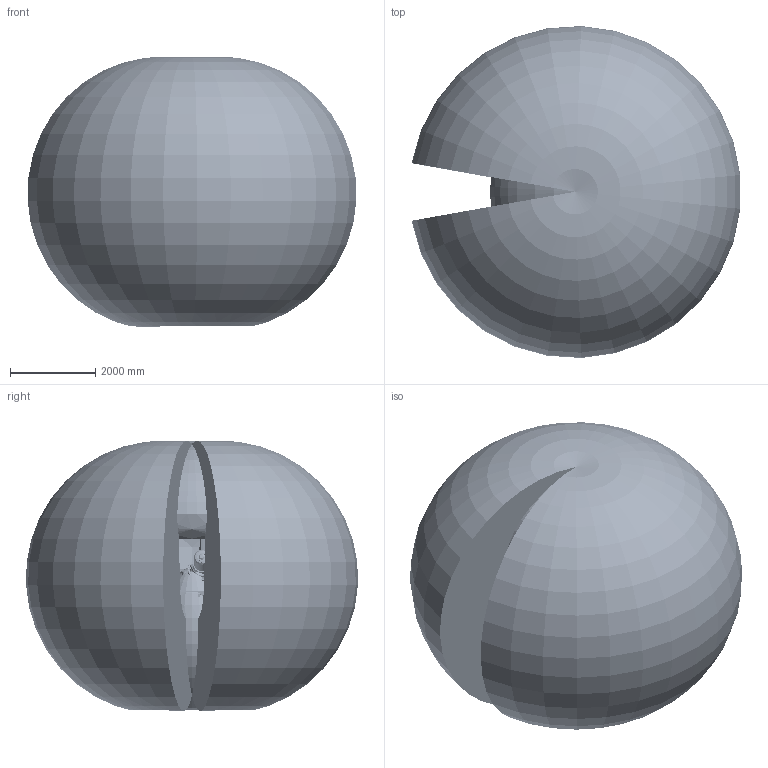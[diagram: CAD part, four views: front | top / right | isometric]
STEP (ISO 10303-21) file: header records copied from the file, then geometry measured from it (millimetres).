
FILE_DESCRIPTION (( 'STEP AP214' ), '1' );
FILE_NAME ('IRB6750S-LID-SW_185kg-390_OC_01_ASM_CAD.step', '2026-05-13T05:40:00', ( '' ), ( '' ), 'SwSTEP 2.0', 'SolidWorks 2024', '' );
FILE_SCHEMA (( 'AUTOMOTIVE_DESIGN' ));
Length unit declared in the file: millimetre
Products named in the file (20): IRB6750S-ALL-OC_00_LINK03m_CABLE; IRB6750S-ALL-OC_00_LINK02_CABLE; IRB6750S-ALL-OC_00_LINK01m_CABLE; IRB6750S_All_OC_00_LINK01_CAD; IRB6750S_All-390_OC_00_LINK04_CAD; IRB6750S-ALL-OC_00_LINK03b_CABLE; IRB6750S-LID_ALL-390-OC_00_LINK04_CABLE; IRB6750S_All-390_OC_01_LINK05_CAD; IRB6750S-LID_185kg-390_OC_00_LINK06_CABLE; IRB6750S_All_OC_00_LINK02_CAD; IRB6750S_All_OC_00_BASE_CAD; IRB6750S-LID_185kg-390_OC_00_Working-envelope; IRB6750S-LID-SW_185kg-390_OC_01_ASM_CAD; IRB6750S_All_OC_00_CYL_CAD; IRB6750S_All_OC_00_LINK03_CAD; IRB6750S-LID-SW_ALL-OC_00_LINK03a_CABLE; IRB6750S-ALL-OC_00_LINK01_CABLE; IRB6750S-ALL-OC_00_LINK02m_CABLE; IRB6750S-LID_ALL-390-OC_00_LINK05_CABLE; IRB6750S_All_OC_00_ROD_CAD
Assembly tree (19 placements, depth 2):
  IRB6750S-LID-SW_185kg-390_OC_01_ASM_CAD
    IRB6750S_All_OC_00_BASE_CAD
    IRB6750S_All_OC_00_LINK01_CAD
    IRB6750S_All_OC_00_LINK02_CAD
    IRB6750S_All_OC_00_LINK03_CAD
    IRB6750S_All_OC_00_CYL_CAD
    IRB6750S_All_OC_00_ROD_CAD
    IRB6750S_All-390_OC_00_LINK04_CAD
    IRB6750S-LID_185kg-390_OC_00_LINK06_CABLE
    IRB6750S-ALL-OC_00_LINK01m_CABLE
    IRB6750S-ALL-OC_00_LINK02m_CABLE
    IRB6750S-ALL-OC_00_LINK03m_CABLE
    IRB6750S-ALL-OC_00_LINK01_CABLE
    IRB6750S-ALL-OC_00_LINK02_CABLE
    IRB6750S-LID-SW_ALL-OC_00_LINK03a_CABLE
    IRB6750S-ALL-OC_00_LINK03b_CABLE
    IRB6750S-LID_ALL-390-OC_00_LINK04_CABLE
    IRB6750S-LID_ALL-390-OC_00_LINK05_CABLE
    IRB6750S-LID_185kg-390_OC_00_Working-envelope
    IRB6750S_All-390_OC_01_LINK05_CAD
Bounding box: 7717.59 x 7792.12 x 6344.05 mm (x, y, z)
Volume: 187287859440.8 mm3; surface area: 259720851.8 mm2
Topology: 24 solids, 61 shells, 8709 faces, 22275 edges, 14450 vertices
Faces by surface type: plane 4621, cylinder 1797, cone 1050, bspline 959, torus 233, sphere 49
Full cylindrical faces by diameter (mm): 3.3 x1, 4.2 x4, 4.8 x3, 5 x31, 5.2 x4, 5.45 x1, 6 x15, 6.351 x2, 6.6 x4, 6.75 x1, 6.8 x28, 7 x4, 7.5 x2, 8 x12, 8.3 x2, 8.5 x28, 9 x4, 9.5 x4, 10 x24, 10.2 x39, 10.22 x34, 10.5 x2, 11.05 x2, 12 x47, 12.5 x2, 13 x6, 14 x25, 15 x1, 16 x33, 16.27 x24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
Entity records: 473235 total; most frequent: CARTESIAN_POINT 203484, ORIENTED_EDGE 40132, DIRECTION 35732, EDGE_CURVE 20066, VERTEX_POINT 13747, AXIS2_PLACEMENT_3D 13258, EDGE_LOOP 11241, FACE_OUTER_BOUND 9679
